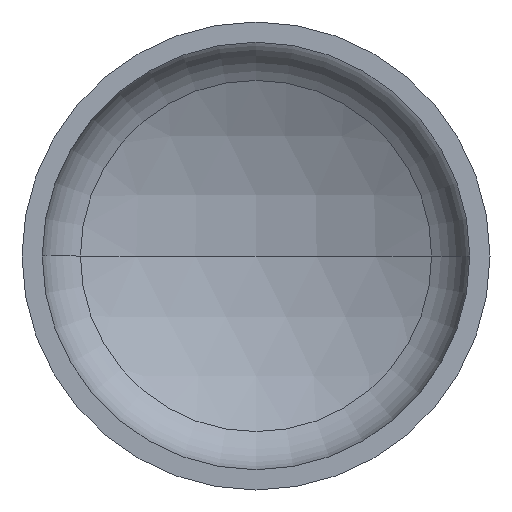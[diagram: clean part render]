
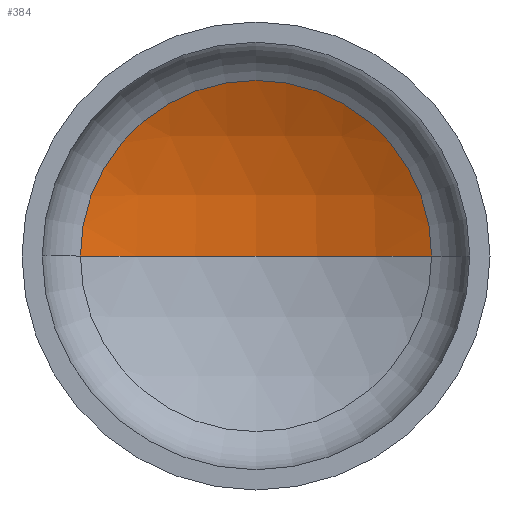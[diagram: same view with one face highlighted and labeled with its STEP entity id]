
A CAD part, front view. The second image highlights one B-rep face of the part: STEP entity #384.
In plain terms, the highlighted spherical face has radius 480 mm.
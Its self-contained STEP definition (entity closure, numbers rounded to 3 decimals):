
#15 = EDGE_LOOP ( 'NONE', ( #267, #87, #16 ) ) ;
#16 = ORIENTED_EDGE ( 'NONE', *, *, #211, .T. ) ;
#18 = DIRECTION ( 'NONE',  ( 1., 0., 0. ) ) ;
#23 = DIRECTION ( 'NONE',  ( 0., 0., 1. ) ) ;
#43 = VERTEX_POINT ( 'NONE', #166 ) ;
#44 = VERTEX_POINT ( 'NONE', #190 ) ;
#87 = ORIENTED_EDGE ( 'NONE', *, *, #192, .T. ) ;
#95 = VERTEX_POINT ( 'NONE', #314 ) ;
#128 = DIRECTION ( 'NONE',  ( 0., 0., -1. ) ) ;
#151 = CARTESIAN_POINT ( 'NONE',  ( 0., -257.666, 0. ) ) ;
#154 = CIRCLE ( 'NONE', #315, 480. ) ;
#165 = DIRECTION ( 'NONE',  ( 0., 0., -1. ) ) ;
#166 = CARTESIAN_POINT ( 'NONE',  ( 225.155, 166.251, 0. ) ) ;
#174 = DIRECTION ( 'NONE',  ( -1., 0., 0. ) ) ;
#175 = EDGE_CURVE ( 'NONE', #44, #95, #236, .T. ) ;
#184 = DIRECTION ( 'NONE',  ( -1., 0., 0. ) ) ;
#190 = CARTESIAN_POINT ( 'NONE',  ( 0., 222.334, 0. ) ) ;
#192 = EDGE_CURVE ( 'NONE', #44, #43, #154, .T. ) ;
#193 = FACE_OUTER_BOUND ( 'NONE', #15, .T. ) ;
#211 = EDGE_CURVE ( 'NONE', #43, #95, #290, .T. ) ;
#236 = CIRCLE ( 'NONE', #276, 480. ) ;
#248 = CARTESIAN_POINT ( 'NONE',  ( 0., 166.251, 0. ) ) ;
#250 = CARTESIAN_POINT ( 'NONE',  ( 0., -257.666, 0. ) ) ;
#267 = ORIENTED_EDGE ( 'NONE', *, *, #175, .F. ) ;
#269 = DIRECTION ( 'NONE',  ( 1., 0., 0. ) ) ;
#270 = DIRECTION ( 'NONE',  ( 0., -1., 0. ) ) ;
#276 = AXIS2_PLACEMENT_3D ( 'NONE', #371, #23, #18 ) ;
#290 = CIRCLE ( 'NONE', #352, 225.155 ) ;
#314 = CARTESIAN_POINT ( 'NONE',  ( -225.155, 166.251, 0. ) ) ;
#315 = AXIS2_PLACEMENT_3D ( 'NONE', #250, #165, #184 ) ;
#318 = SPHERICAL_SURFACE ( 'NONE', #328, 480. ) ;
#328 = AXIS2_PLACEMENT_3D ( 'NONE', #151, #128, #174 ) ;
#352 = AXIS2_PLACEMENT_3D ( 'NONE', #248, #270, #269 ) ;
#371 = CARTESIAN_POINT ( 'NONE',  ( 0., -257.666, 0. ) ) ;
#384 = ADVANCED_FACE ( 'NONE', ( #193 ), #318, .F. ) ;
